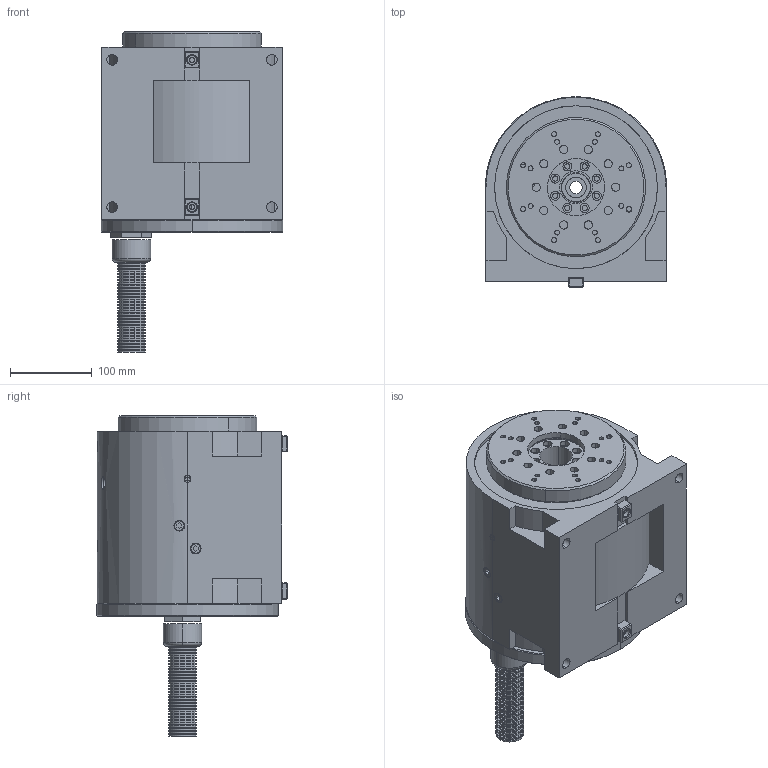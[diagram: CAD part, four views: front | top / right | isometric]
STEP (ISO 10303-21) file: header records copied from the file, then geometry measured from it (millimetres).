
FILE_DESCRIPTION (( 'STEP AP203' ), '1' );
FILE_NAME ('1505970 DD176-04.STEP', '2020-12-05T05:38:40', ( '' ), ( '' ), 'SwSTEP 2.0', 'SolidWorks 2019', '' );
FILE_SCHEMA (( 'CONFIG_CONTROL_DESIGN' ));
Length unit declared in the file: millimetre
Products named in the file (1): 1505970 DD176-04
Bounding box: 222 x 233 x 392 mm (x, y, z)
Surface area: 404524.3 mm2 (no closed solid volume)
Topology: 0 solids, 24 shells, 495 faces, 1258 edges, 860 vertices
Faces by surface type: cylinder 254, plane 197, cone 42, torus 2
Entity records: 15754 total; most frequent: CARTESIAN_POINT 3108, DIRECTION 2874, ORIENTED_EDGE 2248, EDGE_CURVE 1258, AXIS2_PLACEMENT_3D 1136, VERTEX_POINT 860, EDGE_LOOP 658, CIRCLE 640
